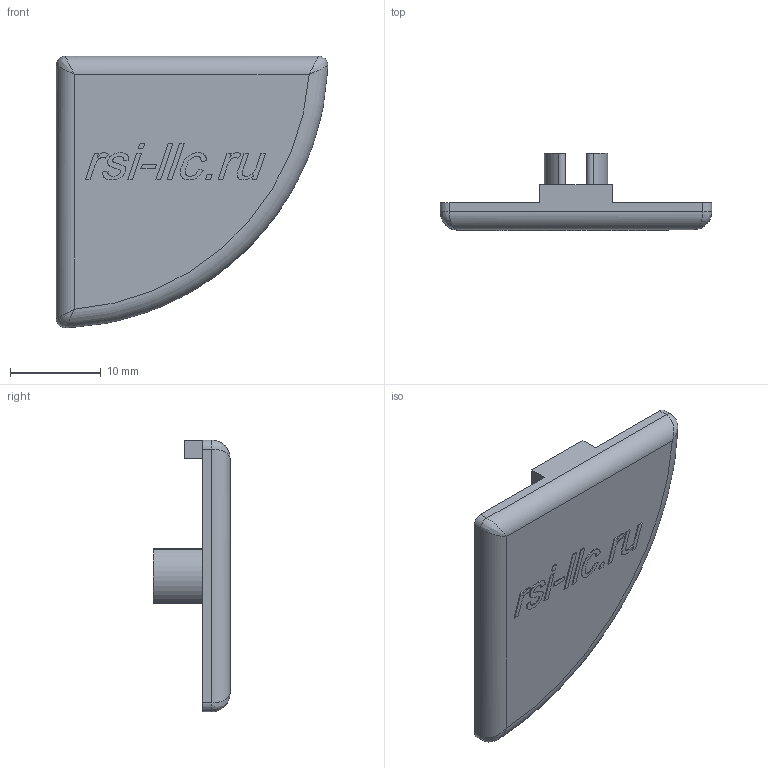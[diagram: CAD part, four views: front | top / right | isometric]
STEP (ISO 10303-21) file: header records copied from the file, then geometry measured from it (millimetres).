
FILE_DESCRIPTION (( 'STEP AP214' ), '1' );
FILE_NAME ('4012.STEP', '2020-10-20T12:30:54', ( '' ), ( '' ), 'SwSTEP 2.0', 'SolidWorks 2018', '' );
FILE_SCHEMA (( 'AUTOMOTIVE_DESIGN' ));
Length unit declared in the file: millimetre
Products named in the file (1): 4012
Bounding box: 30 x 8.6 x 30 mm (x, y, z)
Volume: 1420.2 mm3; surface area: 2005.8 mm2
Topology: 1 solids, 1 shells, 148 faces, 379 edges, 243 vertices
Faces by surface type: plane 74, bspline 35, cylinder 23, torus 16
Entity records: 7409 total; most frequent: CARTESIAN_POINT 2949, ORIENTED_EDGE 752, DIRECTION 608, EDGE_CURVE 376, VERTEX_POINT 243, LINE 232, VECTOR 232, AXIS2_PLACEMENT_3D 188
